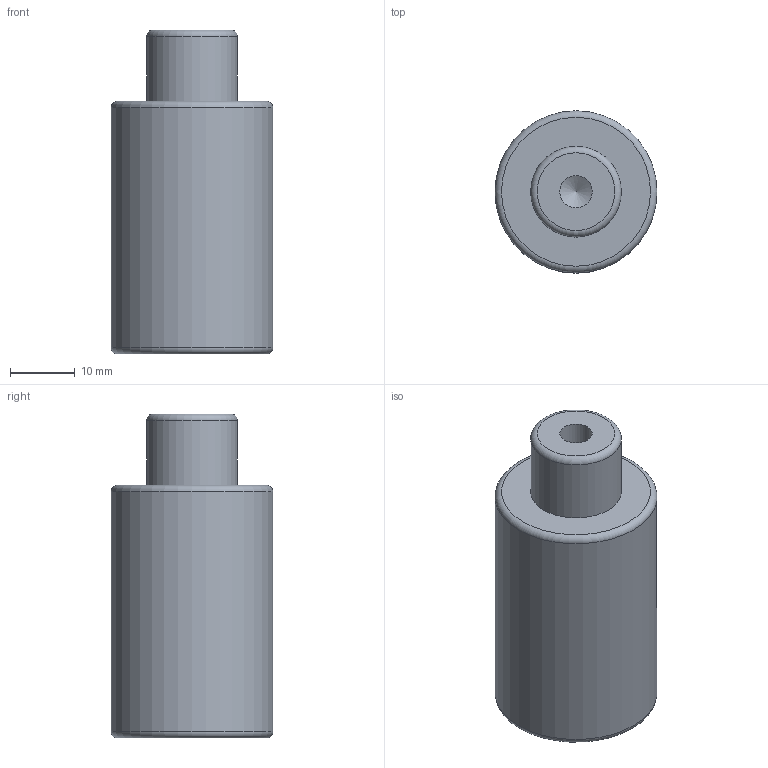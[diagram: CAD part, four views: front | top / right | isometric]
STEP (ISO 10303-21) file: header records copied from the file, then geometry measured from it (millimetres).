
FILE_DESCRIPTION(/* description */ (''),/* implementation_level */ '2;1');
FILE_NAME(/* name */ 'NV5-SMLX.25x10.stp',/* time_stamp */ '2018-08-31T16:08:38+02:00',/* author */ (''),/* organization */ (''),/* preprocessor_version */ 'ST-DEVELOPER v16',/* originating_system */ 'SIEMENS PLM Software NX 10.0',/* authorisation */ '');
FILE_SCHEMA (('AUTOMOTIVE_DESIGN { 1 0 10303 214 3 1 1 1 }'));
Length unit declared in the file: millimetre
Products named in the file (1): NV5-SMLX.25x10
Bounding box: 25 x 25 x 50 mm (x, y, z)
Volume: 20343.5 mm3; surface area: 4793.1 mm2
Topology: 1 solids, 1 shells, 12 faces, 24 edges, 15 vertices
Faces by surface type: cylinder 4, torus 3, plane 3, cone 2
Full cylindrical faces by diameter (mm): 5 x2, 14 x1, 25 x1
Entity records: 266 total; most frequent: DIRECTION 48, CARTESIAN_POINT 37, FACE_BOUND 24, AXIS2_PLACEMENT_3D 24, EDGE_LOOP 22, ORIENTED_EDGE 22, VERTEX_POINT 13, ADVANCED_FACE 12
